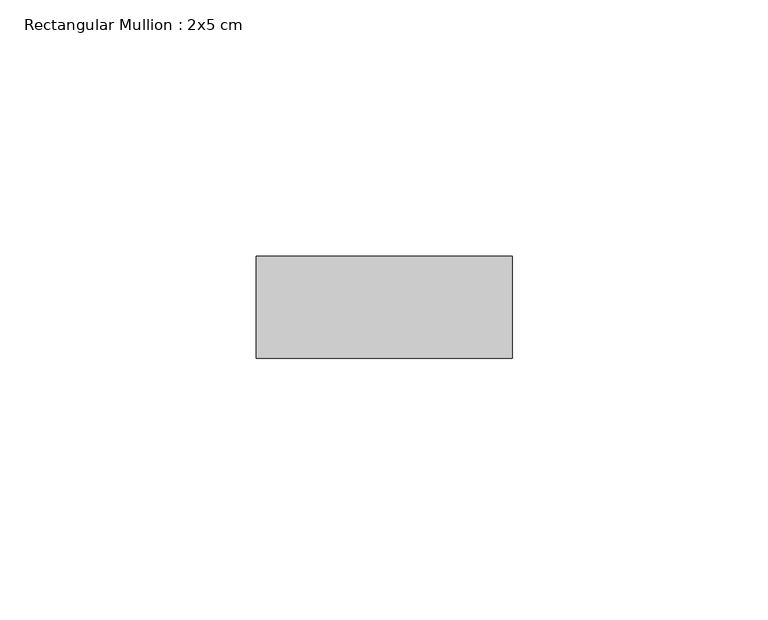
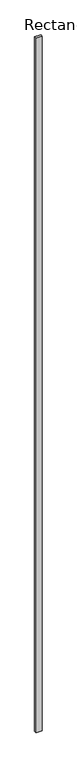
"""IFC4 building model written with IfcOpenShell, lengths in millimetres: member geometry, Rectangular Mullion : 2x5 cm."""

from ifc_helpers import new_model, si_unit, frame, origin, place, context, project, spatial, polyline, outline, extrude, source, transform, mapped, element, save


def rectangular_mullion_2x5_cm_9b8e95fe(model_context):
    return source(origin(), model_context, "Body", "SweptSolid", [
        extrude(outline(polyline([(50.0, 20.0), (50.0, 0.0), (0.0, 0.0), (0.0, 20.0), (50.0, 20.0)])), frame((0.0, 0.0, -5960.2363238), z_axis=(0.0, 0.0, 1.0), x_axis=(1.0, 0.0, 0.0)), (0.0, 0.0, 1.0), 5960.2363238),
    ])


if __name__ == "__main__":
    model = new_model("IFC4")
    model_context = context("Model", 3, world=origin())
    ifc_project = project(units=[si_unit("LENGTHUNIT", "METRE", prefix="MILLI")], contexts=[model_context])
    site = spatial("IfcSite", under=ifc_project)
    building = spatial("IfcBuilding", under=site)
    placement = place(None, origin())
    rectangular_mullion_2x5_cm_shape = rectangular_mullion_2x5_cm_9b8e95fe(model_context)
    element("IfcMember", 1, ObjectType="Rectangular Mullion : 2x5 cm", at=placement, inside=building, context=model_context, shape_type="MappedRepresentation", body=[
        mapped(rectangular_mullion_2x5_cm_shape, transform((0.0, 0.0, 0.0), x_axis=(1.0, 0.0, 0.0), y_axis=(0.0, 1.0, 0.0), z_axis=(0.0, 0.0, 1.0))),
    ])
    save(model, "model.ifc")
